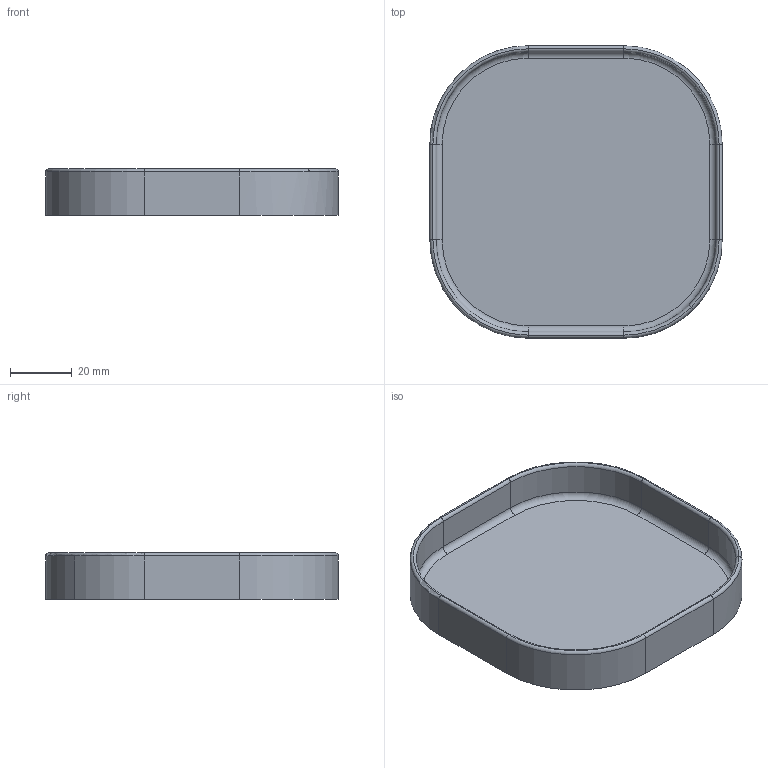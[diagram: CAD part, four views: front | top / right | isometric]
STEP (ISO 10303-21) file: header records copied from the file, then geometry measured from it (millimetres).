
FILE_DESCRIPTION (( 'STEP AP214' ), '1' );
FILE_NAME ('Chopstick Holders_5_stand v2.STEP', '2023-02-17T19:25:09', ( '' ), ( '' ), 'SwSTEP 2.0', 'SolidWorks 2020', '' );
FILE_SCHEMA (( 'AUTOMOTIVE_DESIGN' ));
Length unit declared in the file: millimetre
Products named in the file (1): Chopstick Holders_5_stand v2
Bounding box: 95 x 95 x 15 mm (x, y, z)
Volume: 24709.2 mm3; surface area: 24686.7 mm2
Topology: 1 solids, 1 shells, 45 faces, 96 edges, 53 vertices
Faces by surface type: cylinder 21, torus 14, plane 10
Entity records: 1235 total; most frequent: DIRECTION 243, CARTESIAN_POINT 195, ORIENTED_EDGE 192, AXIS2_PLACEMENT_3D 101, EDGE_CURVE 96, CIRCLE 55, VERTEX_POINT 53, ADVANCED_FACE 45
